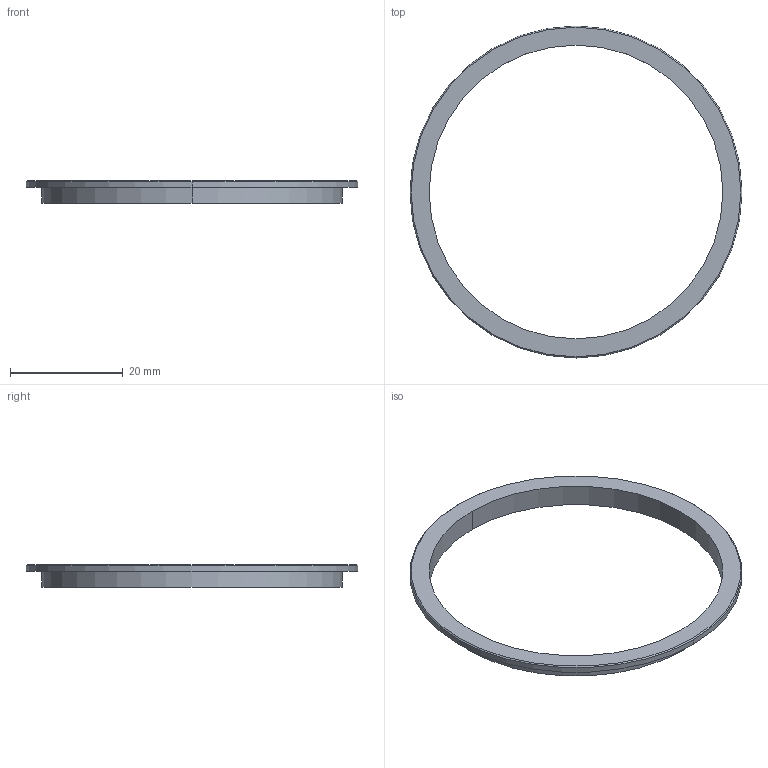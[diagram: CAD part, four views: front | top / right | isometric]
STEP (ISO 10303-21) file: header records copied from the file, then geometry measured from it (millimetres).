
FILE_DESCRIPTION(/* description */ ('VariCAD 2008 3.04 AP-203'),/* implementation_level */ '2;1');
FILE_NAME(/* name */ '0353-19-11',/* time_stamp */ '2009-04-22T22:25:16-06:00',/* author */ (''),/* organization */ (''),/* preprocessor_version */ 'ST-DEVELOPER v12',/* originating_system */ 'VariCAD 2008 3.04; kernel version (20080715)',/* authorisation */ '');
FILE_SCHEMA (('CONFIG_CONTROL_DESIGN'));
Length unit declared in the file: millimetre
Products named in the file (1): Part
Bounding box: 59 x 59 x 4 mm (x, y, z)
Volume: 987.6 mm3; surface area: 2514.1 mm2
Topology: 1 solids, 1 shells, 11 faces, 22 edges, 14 vertices
Faces by surface type: cylinder 6, plane 3, cone 2
Entity records: 344 total; most frequent: DIRECTION 62, CARTESIAN_POINT 49, ORIENTED_EDGE 44, AXIS2_PLACEMENT_3D 27, EDGE_CURVE 22, EDGE_LOOP 14, CIRCLE 14, VERTEX_POINT 14
